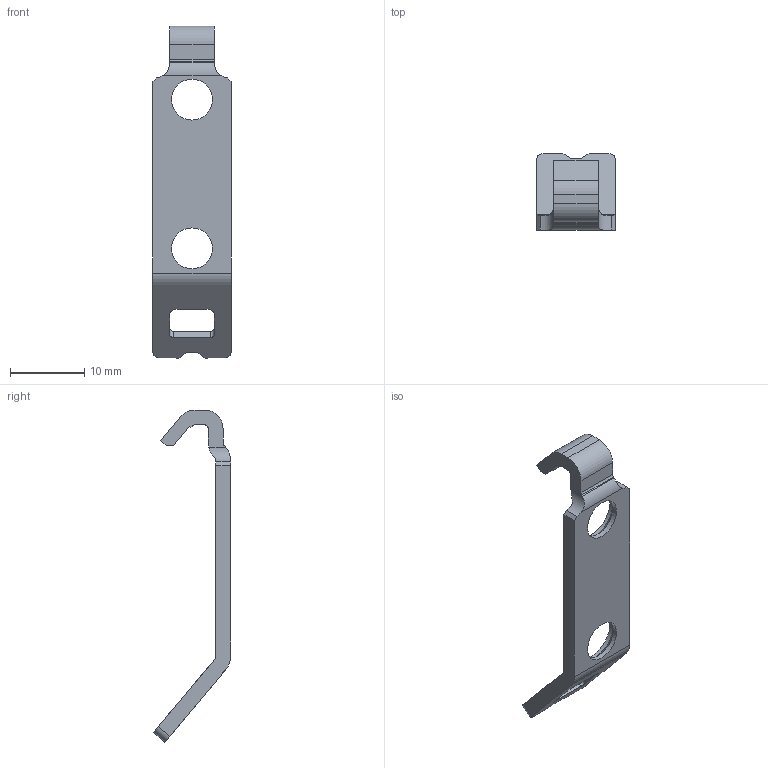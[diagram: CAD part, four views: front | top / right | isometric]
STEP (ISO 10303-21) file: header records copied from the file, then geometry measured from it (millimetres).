
FILE_DESCRIPTION (( 'STEP AP214' ), '1' );
FILE_NAME ('_Einhaengehaken_H63_Anschraubvariante.step', '2010-07-15T07:47:11', ( 'grass' ), ( '' ), 'SwSTEP 2.0', 'SolidWorks 2009', '' );
FILE_SCHEMA (( 'AUTOMOTIVE_DESIGN' ));
Length unit declared in the file: millimetre
Products named in the file (1): _Einhaengehaken_H63_Anschraubvariante
Bounding box: 10.5 x 10.36 x 44.64 mm (x, y, z)
Volume: 817.2 mm3; surface area: 1201.9 mm2
Topology: 1 solids, 1 shells, 64 faces, 182 edges, 118 vertices
Faces by surface type: plane 32, cylinder 28, cone 4
Entity records: 2170 total; most frequent: CARTESIAN_POINT 447, ORIENTED_EDGE 364, DIRECTION 348, EDGE_CURVE 182, LINE 118, VECTOR 118, VERTEX_POINT 118, AXIS2_PLACEMENT_3D 115
